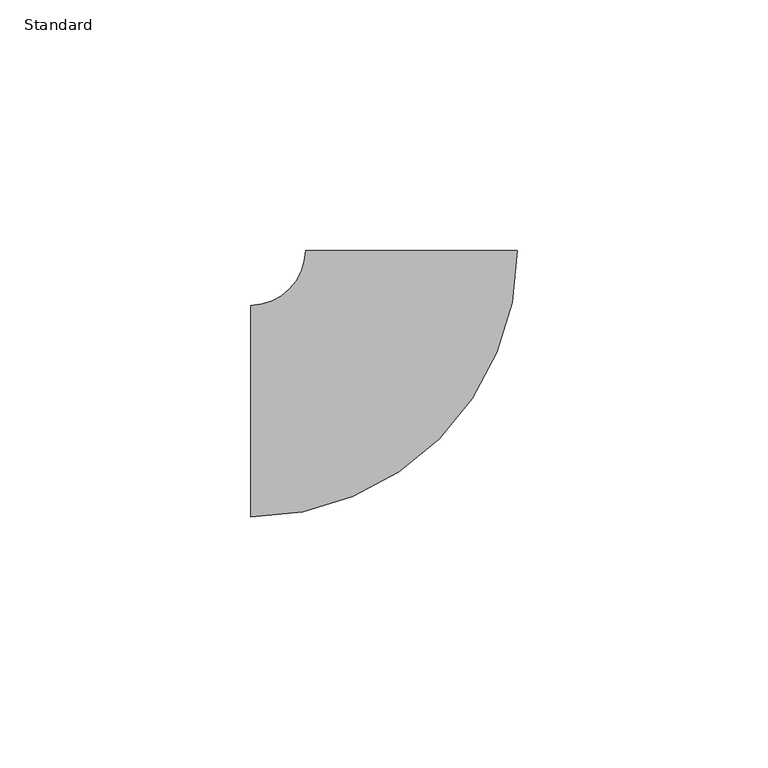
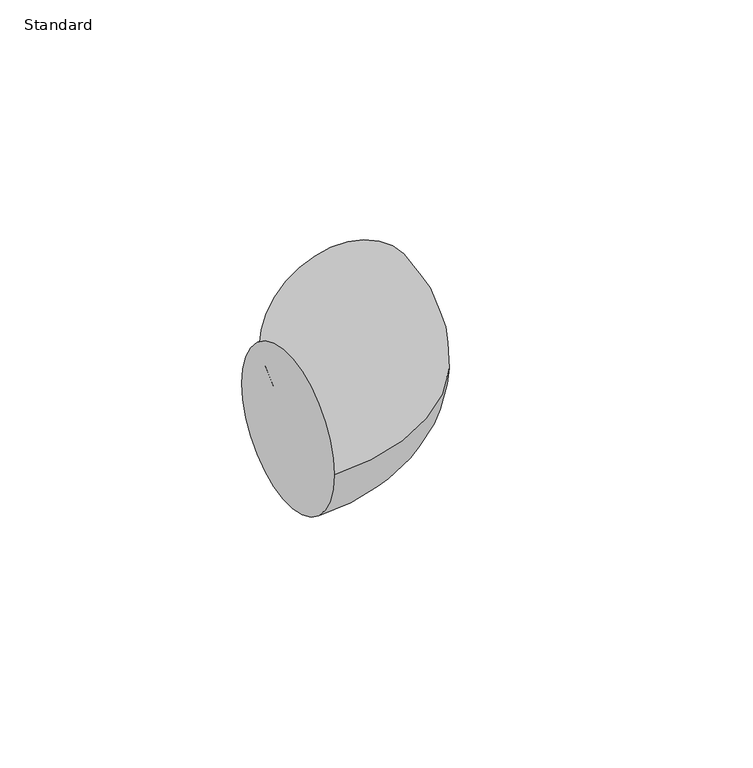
"""IFC4 building model written with IfcOpenShell, lengths in millimetres: pipe fitting geometry, Coude - Générique1 : Standard."""

from ifc_helpers import new_model, si_unit, point, frame, origin, place, context, project, spatial, circle_curve, ellipse_curve, trimmed, source, transform, mapped, element, save
from ifc_brep_helpers import plane_surface, revolved_surface, advanced_brep


def standard_6fab9642(model_context):
    return source(origin(), model_context, "Body", "AdvancedBrep", [
        advanced_brep(
        [(-32.0, -21.1, 0.0), (-32.0, 21.1, 0.0), (21.1071951, 31.9952546, 0.0), (-21.0928038, 32.0047438, 0.0)],
        [
            (0, 1, circle_curve(frame((-32.0, 0.0, 0.0), z_axis=(-1.0, 0.0, 0.0), x_axis=(0.0, 1.0, 0.0)), 21.1)),
            (1, 0, circle_curve(frame((-32.0, 0.0, 0.0), z_axis=(-1.0, 0.0, 0.0), x_axis=(0.0, 1.0, 0.0)), 21.1)),
            (2, 3, circle_curve(frame((0.0071956, 31.9999992, 0.0), z_axis=(0.0002248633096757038, 0.9999999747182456, 0.0), x_axis=(-0.9999999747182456, 0.0002248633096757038, 0.0)), 21.1)),
            (3, 2, circle_curve(frame((0.0071956, 31.9999992, 0.0), z_axis=(0.0002248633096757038, 0.9999999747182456, 0.0), x_axis=(-0.9999999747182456, 0.0002248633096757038, 0.0)), 21.1)),
            (3, 1, circle_curve(frame((-32.0, 32.0071964, 0.0), z_axis=(0.0, 0.0, -1.0), x_axis=(0.0, -1.0, 0.0)), 10.9071964)),
            (0, 2, circle_curve(frame((-32.0, 32.0071964, 0.0), z_axis=(0.0, 0.0, 1.0), x_axis=(0.0, -1.0, 0.0)), 53.1071964)),
        ],
        [
            plane_surface(frame((-32.0, 0.0, 0.0), z_axis=(-1.0, 0.0, 0.0), x_axis=(0.0, 0.0, 1.0))),
            plane_surface(frame((0.0071956, 31.9999992, 0.0), z_axis=(0.00022486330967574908, 0.9999999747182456, 0.0), x_axis=(0.0, 0.0, 1.0))),
            revolved_surface(trimmed(ellipse_curve(frame((-32.0, 0.0, 0.0), z_axis=(-1.0, 0.0, 0.0), x_axis=(0.0, 1.0, 0.0)), 21.1, 21.1), [point((-32.0, -21.1, 0.0))], [point((-32.0, 21.1, 0.0))], True, "CARTESIAN"), (-32.0, 32.0071964, 0.0), (0.0, 0.0, 1.0)),
            revolved_surface(trimmed(ellipse_curve(frame((-32.0, 0.0, 0.0), z_axis=(-1.0, 0.0, 0.0), x_axis=(0.0, 1.0, 0.0)), 21.1, 21.1), [point((-32.0, 21.1, 0.0))], [point((-32.0, -21.1, 0.0))], True, "CARTESIAN"), (-32.0, 32.0071964, 0.0), (0.0, 0.0, 1.0)),
        ],
        [
            (0, [[1, 2]]),
            (1, [[3, 4]]),
            (2, [[5, -1, 6, -4]]),
            (3, [[-6, -2, -5, -3]]),
        ],
    ),
    ])


if __name__ == "__main__":
    model = new_model("IFC4")
    model_context = context("Model", 3, world=origin())
    ifc_project = project(units=[si_unit("LENGTHUNIT", "METRE", prefix="MILLI")], contexts=[model_context])
    site = spatial("IfcSite", under=ifc_project)
    building = spatial("IfcBuilding", under=site)
    placement = place(None, origin())
    standard_shape = standard_6fab9642(model_context)
    element("IfcPipeFitting", 1, ObjectType="Coude - Générique1 : Standard", at=placement, inside=building, context=model_context, shape_type="MappedRepresentation", body=[
        mapped(standard_shape, transform((0.0, 0.0, 0.0), x_axis=(1.0, 0.0, 0.0), y_axis=(0.0, 1.0, 0.0), z_axis=(0.0, 0.0, 1.0))),
    ])
    save(model, "model.ifc")
